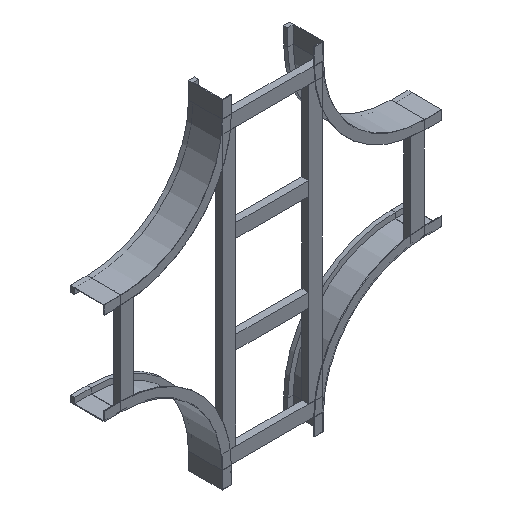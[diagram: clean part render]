
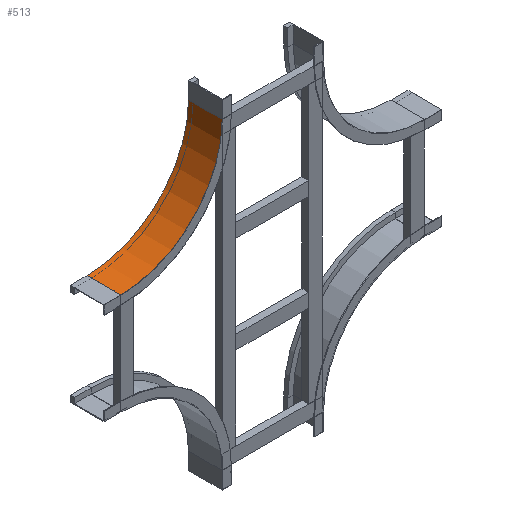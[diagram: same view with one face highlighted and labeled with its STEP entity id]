
A CAD part, isometric view. The second image highlights one B-rep face of the part: STEP entity #513.
In plain terms, the highlighted cylindrical face has radius 300 mm (diameter 600 mm), a partial arc.
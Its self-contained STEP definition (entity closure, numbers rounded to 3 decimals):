
#146 = LINE ( 'NONE', #787, #723 ) ;
#171 = CARTESIAN_POINT ( 'NONE',  ( 300., 0., -50. ) ) ;
#227 = ORIENTED_EDGE ( 'NONE', *, *, #851, .F. ) ;
#232 = EDGE_CURVE ( 'NONE', #1320, #243, #255, .T. ) ;
#243 = VERTEX_POINT ( 'NONE', #1193 ) ;
#255 = CIRCLE ( 'NONE', #1227, 300. ) ;
#258 = VERTEX_POINT ( 'NONE', #1307 ) ;
#291 = VECTOR ( 'NONE', #577, 1000. ) ;
#362 = ORIENTED_EDGE ( 'NONE', *, *, #906, .T. ) ;
#394 = EDGE_CURVE ( 'NONE', #476, #258, #532, .T. ) ;
#397 = CYLINDRICAL_SURFACE ( 'NONE', #1224, 300. ) ;
#432 = DIRECTION ( 'NONE',  ( -1., 0., 0. ) ) ;
#458 = DIRECTION ( 'NONE',  ( 0., -1., 0. ) ) ;
#476 = VERTEX_POINT ( 'NONE', #720 ) ;
#513 = ADVANCED_FACE ( 'NONE', ( #1146 ), #397, .F. ) ;
#532 = CIRCLE ( 'NONE', #1356, 300. ) ;
#577 = DIRECTION ( 'NONE',  ( 0., 1., 0. ) ) ;
#720 = CARTESIAN_POINT ( 'NONE',  ( 0., 0., -50. ) ) ;
#723 = VECTOR ( 'NONE', #1100, 1000. ) ;
#727 = DIRECTION ( 'NONE',  ( 0., -1., 0. ) ) ;
#741 = EDGE_LOOP ( 'NONE', ( #1038, #227, #1274, #362 ) ) ;
#765 = CARTESIAN_POINT ( 'NONE',  ( 300., 100., -50. ) ) ;
#787 = CARTESIAN_POINT ( 'NONE',  ( 0., 0., -50. ) ) ;
#793 = DIRECTION ( 'NONE',  ( 0., -1., 0. ) ) ;
#851 = EDGE_CURVE ( 'NONE', #476, #1320, #146, .T. ) ;
#906 = EDGE_CURVE ( 'NONE', #258, #243, #907, .T. ) ;
#907 = LINE ( 'NONE', #1329, #291 ) ;
#943 = CARTESIAN_POINT ( 'NONE',  ( 300., 0., -50. ) ) ;
#974 = DIRECTION ( 'NONE',  ( -1., 0., 0. ) ) ;
#1038 = ORIENTED_EDGE ( 'NONE', *, *, #232, .F. ) ;
#1100 = DIRECTION ( 'NONE',  ( 0., 1., 0. ) ) ;
#1146 = FACE_OUTER_BOUND ( 'NONE', #741, .T. ) ;
#1193 = CARTESIAN_POINT ( 'NONE',  ( 300., 100., -350. ) ) ;
#1224 = AXIS2_PLACEMENT_3D ( 'NONE', #171, #793, #1335 ) ;
#1227 = AXIS2_PLACEMENT_3D ( 'NONE', #765, #458, #974 ) ;
#1274 = ORIENTED_EDGE ( 'NONE', *, *, #394, .T. ) ;
#1307 = CARTESIAN_POINT ( 'NONE',  ( 300., 0., -350. ) ) ;
#1320 = VERTEX_POINT ( 'NONE', #1387 ) ;
#1329 = CARTESIAN_POINT ( 'NONE',  ( 300., 0., -350. ) ) ;
#1335 = DIRECTION ( 'NONE',  ( 0., 0., -1. ) ) ;
#1356 = AXIS2_PLACEMENT_3D ( 'NONE', #943, #727, #432 ) ;
#1387 = CARTESIAN_POINT ( 'NONE',  ( 0., 100., -50. ) ) ;
